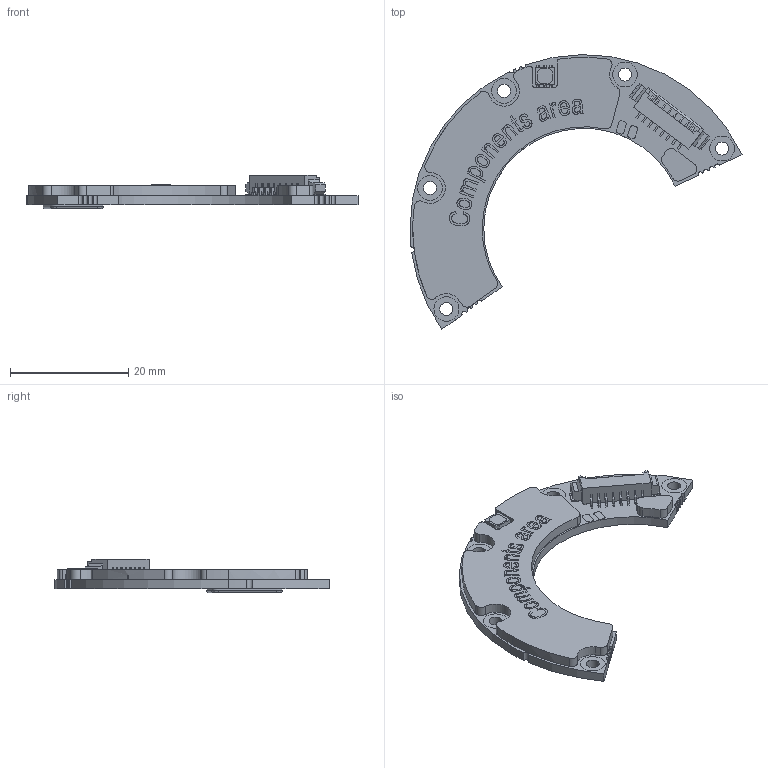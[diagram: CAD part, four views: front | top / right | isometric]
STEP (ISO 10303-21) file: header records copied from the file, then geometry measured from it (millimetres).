
FILE_DESCRIPTION (( 'STEP AP214' ), '1' );
FILE_NAME ('MB049xxxxxxDNx00.STEP', '2024-04-18T09:27:09', ( '' ), ( '' ), 'SwSTEP 2.0', 'SolidWorks 2022', '' );
FILE_SCHEMA (( 'AUTOMOTIVE_DESIGN' ));
Length unit declared in the file: millimetre
Products named in the file (1): MB049xxxxxxDNx00
Bounding box: 56.19 x 46.5 x 5.66 mm (x, y, z)
Volume: 2651.3 mm3; surface area: 3154.5 mm2
Topology: 6 solids, 6 shells, 914 faces, 2499 edges, 1640 vertices
Faces by surface type: plane 604, cylinder 169, bspline 141
Entity records: 45269 total; most frequent: CARTESIAN_POINT 12663, ORIENTED_EDGE 4998, DIRECTION 4103, EDGE_CURVE 2499, VECTOR 1875, LINE 1875, VERTEX_POINT 1640, AXIS2_PLACEMENT_3D 1114
